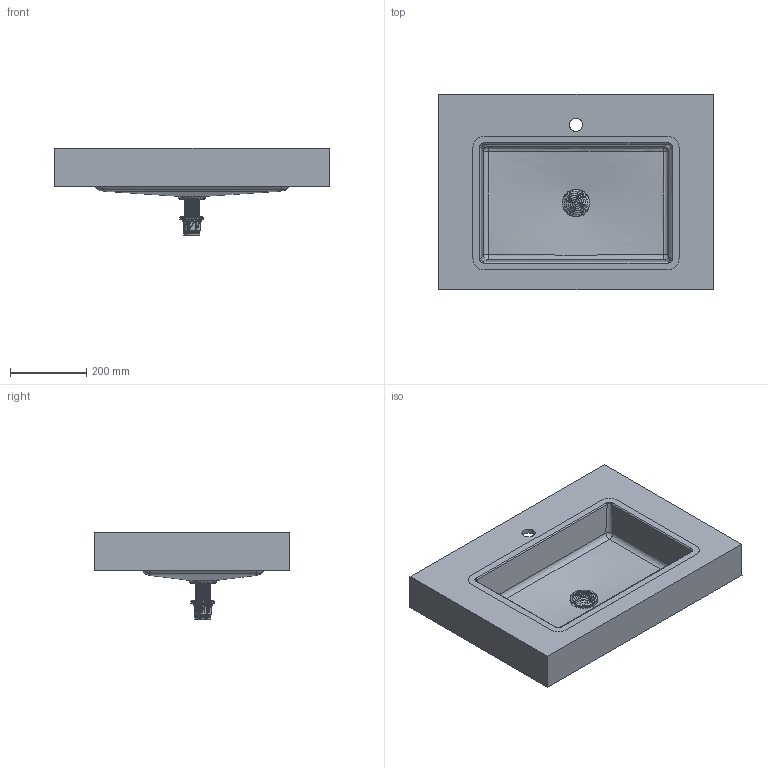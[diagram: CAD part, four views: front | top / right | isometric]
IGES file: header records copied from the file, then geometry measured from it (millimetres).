
Start section: Data from Parasolid IGES Translator 19.0.9, Copyright(c) 2006 Siemens PL M Software. All Rights Reserved.
Global section: file name: noorth-top-H 10 D 51,3 W 72_6531.igs; native system: By Siemens PLM Incorporated; preprocessor: XPlus GENERIC/IGES 19.0.9; author: Noname; organization: Noname; date: 20200603.085452; units: metre
Bounding box: 720 x 512 x 229.51 mm (x, y, z)
Volume: 7998909.7 mm3; surface area: 1450218.8 mm2
Topology: 2 solids, 2 shells, 11703 faces, 35054 edges, 34968 vertices
Faces by surface type: extrusion 11618, bspline 41, plane 29, cylinder 14, cone 1
Full cylindrical faces by diameter (mm): 34.9 x1, 45 x1
